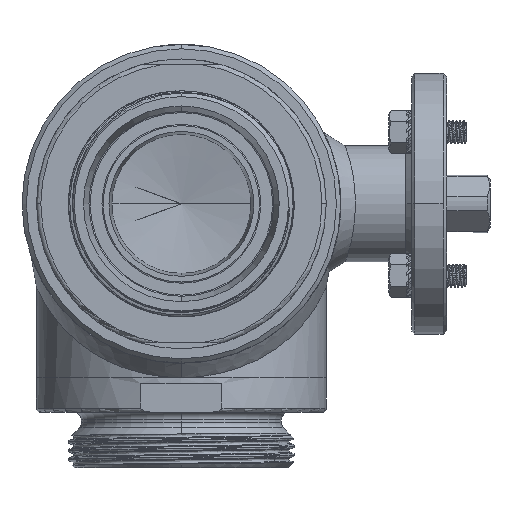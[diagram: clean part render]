
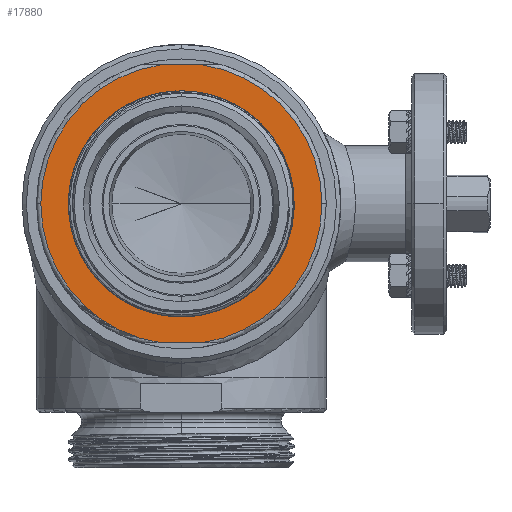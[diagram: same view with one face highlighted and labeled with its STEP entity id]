
A CAD part, front view. The second image highlights one B-rep face of the part: STEP entity #17880.
In plain terms, the highlighted planar face has unit normal (0, -1, 0).
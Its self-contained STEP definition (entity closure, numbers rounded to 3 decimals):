
#14678=DIRECTION('',(1.,0.,0.));
#14679=VECTOR('',#14678,13.892);
#14680=CARTESIAN_POINT('',(-6.946,-72.,48.));
#14681=LINE('',#14680,#14679);
#14682=DIRECTION('',(1.,0.,0.));
#14683=VECTOR('',#14682,13.892);
#14684=CARTESIAN_POINT('',(-6.946,-72.,-48.));
#14685=LINE('',#14684,#14683);
#14686=CARTESIAN_POINT('',(0.,-72.,0.));
#14687=DIRECTION('',(0.,-1.,0.));
#14688=DIRECTION('',(0.,0.,-1.));
#14689=AXIS2_PLACEMENT_3D('',#14686,#14687,#14688);
#14696=CARTESIAN_POINT('',(0.,-72.,0.));
#14697=DIRECTION('',(0.,-1.,0.));
#14698=DIRECTION('',(0.,0.,1.));
#14699=AXIS2_PLACEMENT_3D('',#14696,#14697,#14698);
#17516=CARTESIAN_POINT('',(0.,-72.,0.));
#17517=DIRECTION('',(0.,-1.,0.));
#17518=DIRECTION('',(-0.143,0.,0.99));
#17519=AXIS2_PLACEMENT_3D('',#17516,#17517,#17518);
#17553=CARTESIAN_POINT('',(0.,-72.,0.));
#17554=DIRECTION('',(0.,-1.,0.));
#17555=DIRECTION('',(-1.,0.,0.));
#17556=AXIS2_PLACEMENT_3D('',#17553,#17554,#17555);
#17593=CARTESIAN_POINT('',(0.,-72.,0.));
#17594=DIRECTION('',(0.,-1.,0.));
#17595=DIRECTION('',(0.143,0.,-0.99));
#17596=AXIS2_PLACEMENT_3D('',#17593,#17594,#17595);
#17630=CARTESIAN_POINT('',(0.,-72.,0.));
#17631=DIRECTION('',(0.,-1.,0.));
#17632=DIRECTION('',(1.,0.,0.));
#17633=AXIS2_PLACEMENT_3D('',#17630,#17631,#17632);
#17702=CARTESIAN_POINT('',(0.,-72.,-37.));
#17703=CARTESIAN_POINT('',(0.,-72.,37.));
#17704=VERTEX_POINT('',#17702);
#17705=VERTEX_POINT('',#17703);
#17738=CARTESIAN_POINT('',(48.5,-72.,0.));
#17739=CARTESIAN_POINT('',(6.946,-72.,48.));
#17740=VERTEX_POINT('',#17738);
#17741=VERTEX_POINT('',#17739);
#17746=CARTESIAN_POINT('',(6.946,-72.,-48.));
#17747=VERTEX_POINT('',#17746);
#17750=CARTESIAN_POINT('',(-48.5,-72.,0.));
#17751=CARTESIAN_POINT('',(-6.946,-72.,-48.));
#17752=VERTEX_POINT('',#17750);
#17753=VERTEX_POINT('',#17751);
#17758=CARTESIAN_POINT('',(-6.946,-72.,48.));
#17759=VERTEX_POINT('',#17758);
#17855=CARTESIAN_POINT('',(0.,-72.,0.));
#17856=DIRECTION('',(0.,-1.,0.));
#17857=DIRECTION('',(1.,0.,0.));
#17858=AXIS2_PLACEMENT_3D('',#17855,#17856,#17857);
#17859=PLANE('',#17858);
#17861=ORIENTED_EDGE('',*,*,#17860,.T.);
#17863=ORIENTED_EDGE('',*,*,#17862,.F.);
#17865=ORIENTED_EDGE('',*,*,#17864,.F.);
#17867=ORIENTED_EDGE('',*,*,#17866,.F.);
#17869=ORIENTED_EDGE('',*,*,#17868,.F.);
#17871=ORIENTED_EDGE('',*,*,#17870,.F.);
#17872=EDGE_LOOP('',(#17861,#17863,#17865,#17867,#17869,#17871));
#17873=FACE_OUTER_BOUND('',#17872,.F.);
#17875=ORIENTED_EDGE('',*,*,#17874,.T.);
#17877=ORIENTED_EDGE('',*,*,#17876,.T.);
#17878=EDGE_LOOP('',(#17875,#17877));
#17879=FACE_BOUND('',#17878,.F.);
#14690=CIRCLE('',#14689,37.);
#14700=CIRCLE('',#14699,37.);
#17520=CIRCLE('',#17519,48.5);
#17557=CIRCLE('',#17556,48.5);
#17597=CIRCLE('',#17596,48.5);
#17634=CIRCLE('',#17633,48.5);
#17860=EDGE_CURVE('',#17759,#17741,#14681,.T.);
#17862=EDGE_CURVE('',#17740,#17741,#17634,.T.);
#17864=EDGE_CURVE('',#17747,#17740,#17597,.T.);
#17866=EDGE_CURVE('',#17753,#17747,#14685,.T.);
#17868=EDGE_CURVE('',#17752,#17753,#17557,.T.);
#17870=EDGE_CURVE('',#17759,#17752,#17520,.T.);
#17874=EDGE_CURVE('',#17704,#17705,#14690,.T.);
#17876=EDGE_CURVE('',#17705,#17704,#14700,.T.);
#17880=ADVANCED_FACE('',(#17873,#17879),#17859,.T.);
